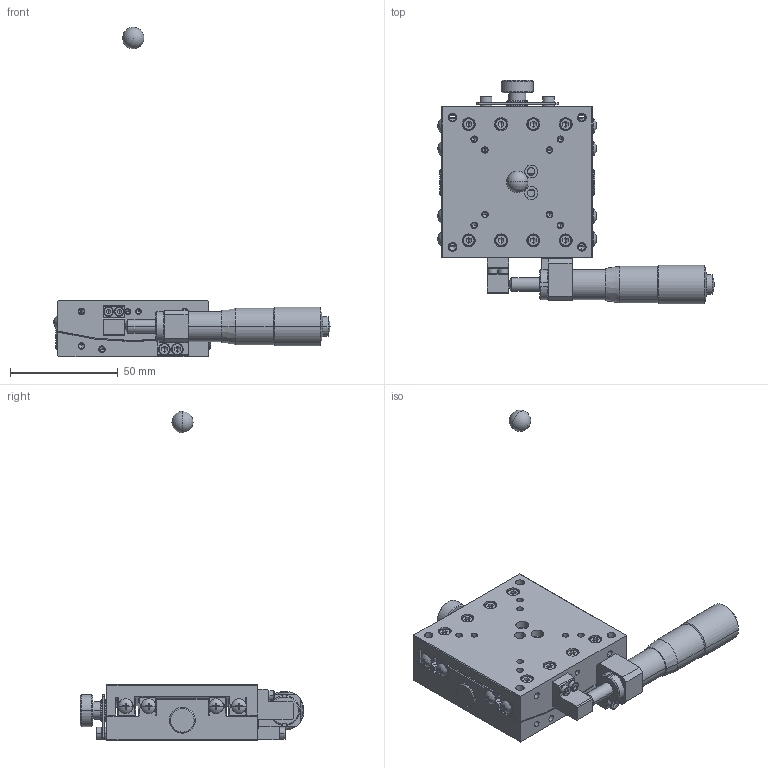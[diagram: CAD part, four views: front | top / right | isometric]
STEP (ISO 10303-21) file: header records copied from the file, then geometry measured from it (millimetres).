
FILE_DESCRIPTION (( 'STEP AP214' ), '1' );
FILE_NAME ('ST07A-S1B.STEP', '2007-01-19T01:37:56', ( ' ' ), ( ' ' ), 'SwSTEP 2.0', 'SolidWorks 2006052', '' );
FILE_SCHEMA (( 'AUTOMOTIVE_DESIGN' ));
Length unit declared in the file: millimetre
Products named in the file (5): MICROMETERHEAD(MHN4-25T)spindle-4; 002610-1020(3D); 002610-1011(3D); ST07A-S1B-Part-1; ST07A-S1B
Assembly tree (4 placements, depth 2):
  ST07A-S1B
    ST07A-S1B-Part-1
    002610-1011(3D)
    002610-1020(3D)
    MICROMETERHEAD(MHN4-25T)spindle-4
Bounding box: 128.39 x 104 x 153 mm (x, y, z)
Volume: 127559.9 mm3; surface area: 59270.6 mm2
Topology: 4 solids, 40 shells, 1771 faces, 4089 edges, 2385 vertices
Faces by surface type: plane 717, cylinder 587, cone 437, sphere 22, torus 8
Entity records: 52472 total; most frequent: CARTESIAN_POINT 12253, DIRECTION 8818, ORIENTED_EDGE 7932, EDGE_CURVE 3966, AXIS2_PLACEMENT_3D 3405, VERTEX_POINT 2382, VECTOR 2008, LINE 2008
